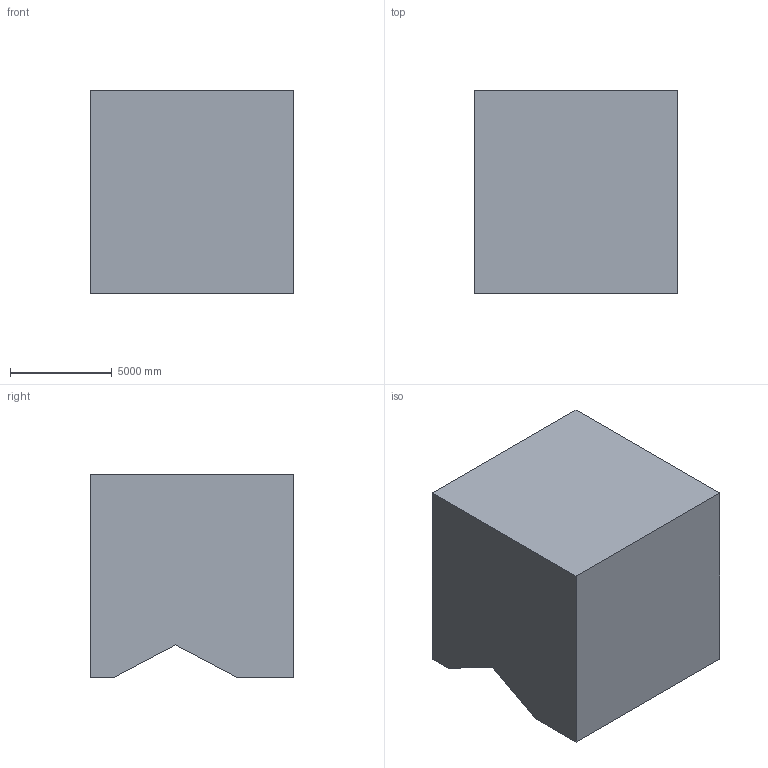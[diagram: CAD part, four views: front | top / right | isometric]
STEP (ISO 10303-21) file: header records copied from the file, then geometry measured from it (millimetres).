
FILE_DESCRIPTION (( 'STEP AP203' ), '1' );
FILE_NAME ('105.STEP', '2022-09-06T12:32:19', ( 'user' ), ( '' ), 'SwSTEP 2.0', 'SolidWorks 2021', '' );
FILE_SCHEMA (( 'CONFIG_CONTROL_DESIGN' ));
Length unit declared in the file: centimetre
Products named in the file (1): 105
Bounding box: 10000 x 10000 x 10000 mm (x, y, z)
Volume: 945075712093.9 mm3; surface area: 600664525.6 mm2
Topology: 1 solids, 1 shells, 13 faces, 33 edges, 22 vertices
Faces by surface type: plane 11, cylinder 2
Entity records: 468 total; most frequent: CARTESIAN_POINT 69, ORIENTED_EDGE 66, DIRECTION 65, EDGE_CURVE 33, LINE 29, VECTOR 29, VERTEX_POINT 22, AXIS2_PLACEMENT_3D 18
